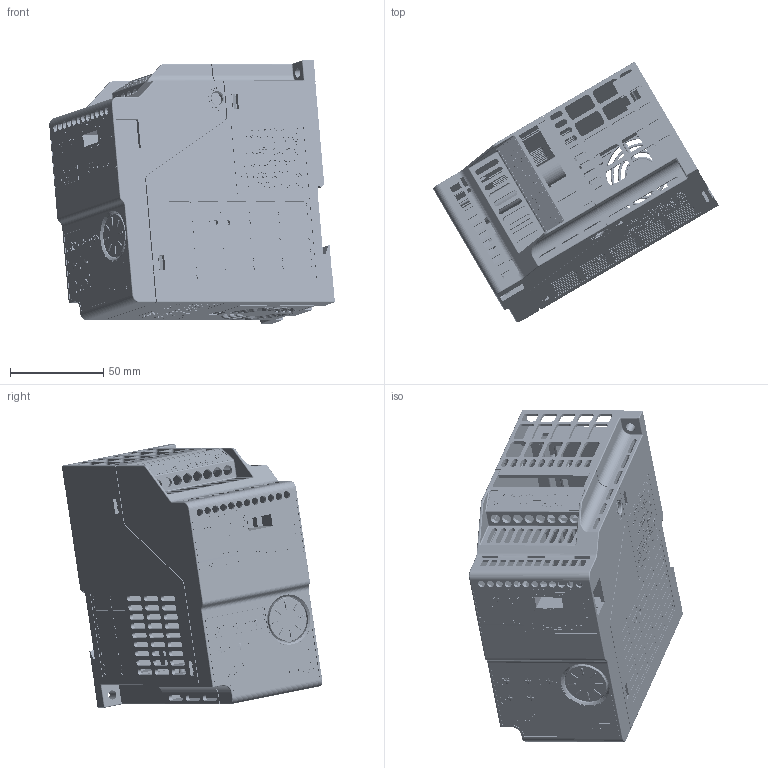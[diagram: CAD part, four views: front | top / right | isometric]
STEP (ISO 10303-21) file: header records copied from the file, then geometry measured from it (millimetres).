
FILE_DESCRIPTION((''),'2;1');
FILE_NAME('E:\tan\SC3\SC3-A\说明用图\SC3-A.stp','2015-11-12T07:57:51',('Administrator'),(''),'Autodesk Inventor 2013','Autodesk Inventor 2013','');
FILE_SCHEMA(('AUTOMOTIVE_DESIGN { 1 0 10303 214 1 1 1 1 }'));
Length unit declared in the file: millimetre
Products named in the file (14): SC3-A; 下盖; 控制板; SC3-A旋钮帽; _X2_673A79CD94ED677F_X0_.0004; 薄膜开关1; 警语; SC3 overlay 上盖; 铭板; 55-4839; 69-7249; SC3-A风扇盖; 上盖-0729; 端子铭板-0729
Assembly tree (15 placements, depth 3):
  SC3-A
    下盖
    控制板
      SC3-A旋钮帽
    _X2_673A79CD94ED677F_X0_.0004
    薄膜开关1
    警语
    SC3 overlay 上盖
    铭板
    55-4839  x2
    69-7249  x2
    SC3-A风扇盖
    上盖-0729
    端子铭板-0729
Bounding box: 153.38 x 139.88 x 141.48 mm (x, y, z)
Volume: 121277.4 mm3; surface area: 165097.6 mm2
Topology: 21 solids, 23 shells, 12267 faces, 33858 edges, 23034 vertices
Faces by surface type: plane 7378, bspline 3908, cylinder 873, torus 46, cone 37, sphere 17, revolution 8
Full cylindrical faces by diameter (mm): 0.43 x3, 1.2 x2, 2.5 x1, 3 x2, 3.3 x4, 4 x12, 4.726 x1, 5 x3, 5.4 x8, 5.434 x2, 7 x1, 8 x1, 10 x1, 25 x1
Entity records: 421756 total; most frequent: CARTESIAN_POINT 133163, ORIENTED_EDGE 66364, DIRECTION 44627, EDGE_CURVE 33190, VECTOR 23501, LINE 23501, VERTEX_POINT 22101, EDGE_LOOP 13621
